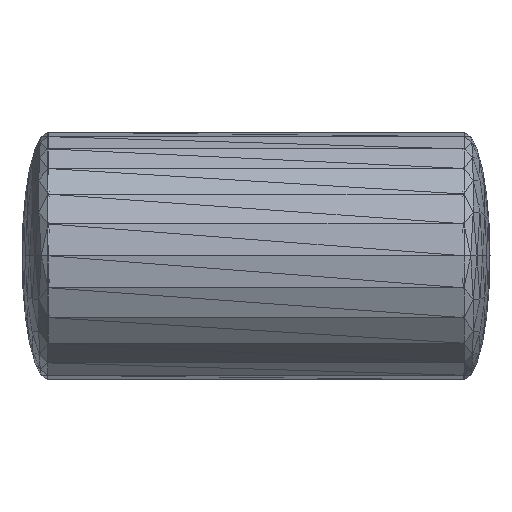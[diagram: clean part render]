
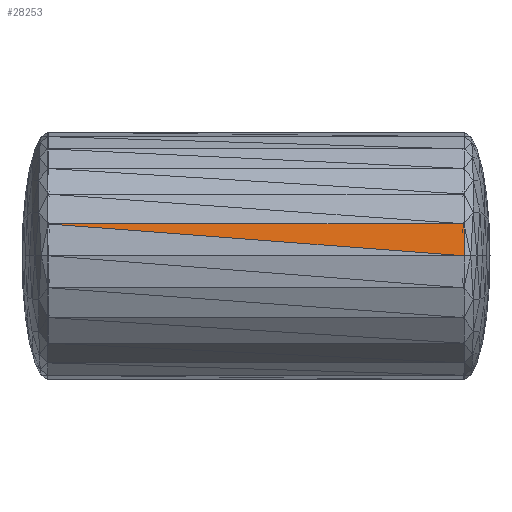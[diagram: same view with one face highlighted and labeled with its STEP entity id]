
A CAD part, top view. The second image highlights one B-rep face of the part: STEP entity #28253.
In plain terms, the highlighted planar face has unit normal (0, -0.13, -0.992).
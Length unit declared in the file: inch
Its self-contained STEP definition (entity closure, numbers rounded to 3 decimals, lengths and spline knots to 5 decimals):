
#27771=CARTESIAN_POINT('',(0.80005,0.12273,1.05868));
#27772=VERTEX_POINT('',#27771);
#28015=CARTESIAN_POINT('',(0.80005,-0.00022,1.07484));
#28016=VERTEX_POINT('',#28015);
#28017=CARTESIAN_POINT('',(0.80009,0.12272,1.05868));
#28018=DIRECTION('',(0.,-0.991,0.13));
#28019=VECTOR('',#28018,0.124);
#28020=LINE('',#28017,#28019);
#28021=EDGE_CURVE('',#27772,#28016,#28020,.T.);
#28199=CARTESIAN_POINT('',(-0.80009,0.12273,1.05901));
#28200=VERTEX_POINT('',#28199);
#28207=CARTESIAN_POINT('',(0.80009,0.12272,1.05868));
#28208=DIRECTION('',(-1.,0.,0.));
#28209=VECTOR('',#28208,1.6);
#28210=LINE('',#28207,#28209);
#28211=EDGE_CURVE('',#27772,#28200,#28210,.T.);
#28234=CARTESIAN_POINT('',(-0.79991,0.12272,1.05901));
#28235=DIRECTION('',(0.997,-0.077,0.01));
#28236=VECTOR('',#28235,1.6048);
#28237=LINE('',#28234,#28236);
#28238=EDGE_CURVE('',#28200,#28016,#28237,.T.);
#28243=CARTESIAN_POINT('',(-0.8,0.12272,1.05885));
#28244=DIRECTION('',(0.,0.13,0.991));
#28245=DIRECTION('',(1.,0.,0.));
#28246=AXIS2_PLACEMENT_3D('',#28243,#28244,#28245);
#28247=PLANE('',#28246);
#28248=ORIENTED_EDGE('',*,*,#28211,.F.);
#28249=ORIENTED_EDGE('',*,*,#28021,.T.);
#28250=ORIENTED_EDGE('',*,*,#28238,.F.);
#28251=EDGE_LOOP('',(#28248,#28249,#28250));
#28252=FACE_BOUND('',#28251,.T.);
#28253=ADVANCED_FACE('',(#28252),#28247,.F.);
